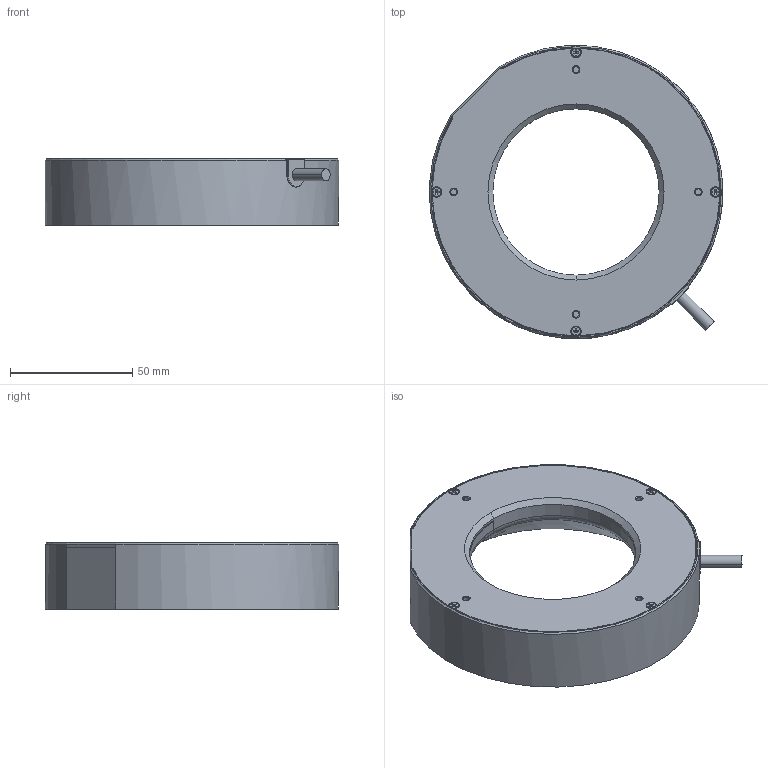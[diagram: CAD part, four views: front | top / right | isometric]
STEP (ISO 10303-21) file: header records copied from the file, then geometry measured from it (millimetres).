
FILE_DESCRIPTION((''),'2;1');
FILE_NAME('MV-LRDS-H-120-45-W','2022-09-02T15:50:01',('qiaoxuan5'),(''),'CREO PARAMETRIC BY PTC INC, 2020044','CREO PARAMETRIC BY PTC INC, 2020044','');
FILE_SCHEMA(('CONFIG_CONTROL_DESIGN'));
Length unit declared in the file: metre
Products named in the file (1): MV-LRDS-H-120-45-W
Bounding box: 119.92 x 119.92 x 27 mm (x, y, z)
Volume: 164817.8 mm3; surface area: 42933.2 mm2
Topology: 1 solids, 17 shells, 523 faces, 1249 edges, 737 vertices
Faces by surface type: plane 262, cylinder 149, cone 82, torus 24, sphere 6
Entity records: 15023 total; most frequent: CARTESIAN_POINT 2908, DIRECTION 2592, ORIENTED_EDGE 2454, EDGE_CURVE 1227, AXIS2_PLACEMENT_3D 934, VERTEX_POINT 737, VECTOR 724, LINE 724
